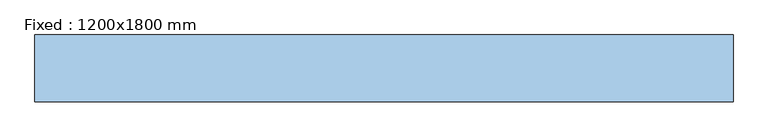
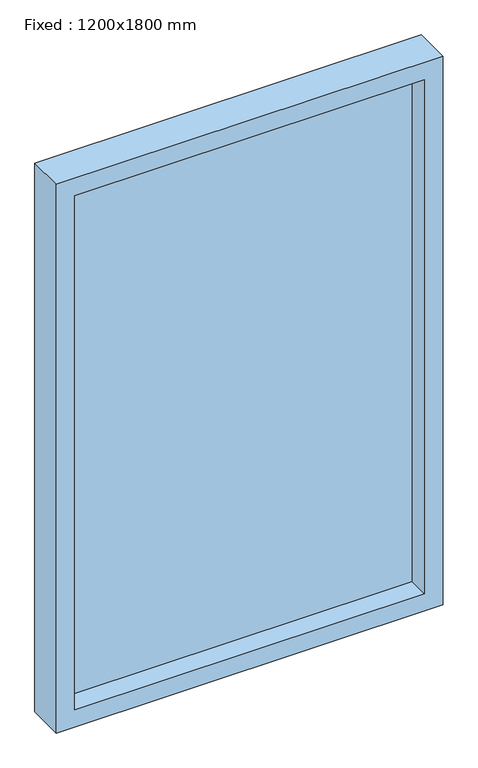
"""IFC4 building model written with IfcOpenShell, lengths in millimetres: window geometry, Fixed : 1200x1800 mm."""

from ifc_helpers import new_model, si_unit, frame, origin, place, context, project, spatial, polyline, outline, extrude, source, transform, mapped, element, save


def fixed_1200x1800_mm_f7b21099(model_context):
    return source(origin(), model_context, "Body", "SweptSolid", [
        extrude(outline(polyline([(800.0, 600.0), (2600.0, 600.0), (2600.0, -600.0), (800.0, -600.0), (800.0, 600.0)]), holes=[polyline([(2543.0, 543.0), (857.0, 543.0), (857.0, -543.0), (2543.0, -543.0), (2543.0, 543.0)])]), frame((0.0, 75.0, 0.0), z_axis=(0.0, 1.0, 0.0), x_axis=(0.0, 0.0, 1.0)), (0.0, 0.0, 1.0), 115.0),
        extrude(outline(polyline([(-543.0, 168.0), (543.0, 168.0), (543.0, 140.0), (-543.0, 140.0), (-543.0, 168.0)])), frame((0.0, 0.0, 857.0), z_axis=(0.0, 0.0, 1.0), x_axis=(1.0, 0.0, 0.0)), (0.0, 0.0, 1.0), 1686.0),
    ])


if __name__ == "__main__":
    model = new_model("IFC4")
    model_context = context("Model", 3, world=origin())
    ifc_project = project(units=[si_unit("LENGTHUNIT", "METRE", prefix="MILLI")], contexts=[model_context])
    site = spatial("IfcSite", under=ifc_project)
    building = spatial("IfcBuilding", under=site)
    placement = place(None, origin())
    fixed_1200x1800_mm_shape = fixed_1200x1800_mm_f7b21099(model_context)
    element("IfcWindow", 1, ObjectType="Fixed : 1200x1800 mm", at=placement, inside=building, context=model_context, shape_type="MappedRepresentation", body=[
        mapped(fixed_1200x1800_mm_shape, transform((0.0, 0.0, 0.0), x_axis=(1.0, 0.0, 0.0), y_axis=(0.0, 1.0, 0.0), z_axis=(0.0, 0.0, 1.0))),
    ])
    save(model, "model.ifc")
